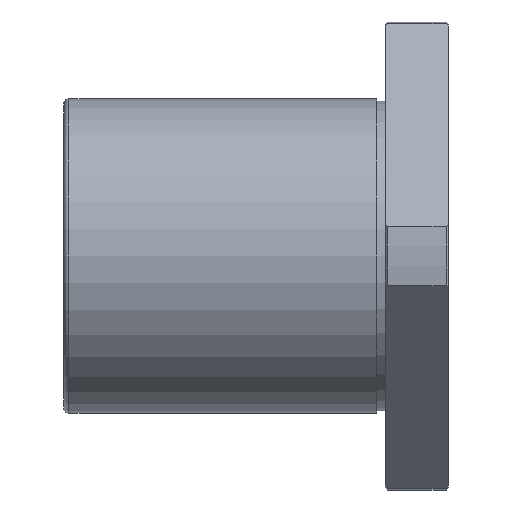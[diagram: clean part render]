
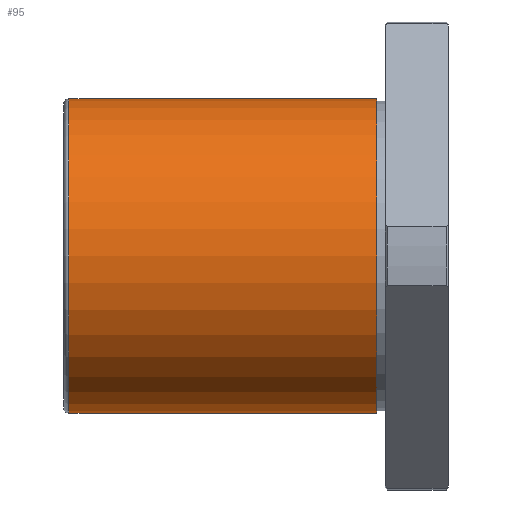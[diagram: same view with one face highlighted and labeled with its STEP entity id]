
A CAD part, front view. The second image highlights one B-rep face of the part: STEP entity #95.
In plain terms, the highlighted cylindrical face has radius 45 mm (diameter 90 mm), a full revolution.
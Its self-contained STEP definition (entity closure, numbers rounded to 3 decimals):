
#95=ADVANCED_FACE('',(#166,#167),#168,.T.);
#166=FACE_OUTER_BOUND('',#266,.T.);
#167=FACE_OUTER_BOUND('',#267,.T.);
#168=CYLINDRICAL_SURFACE('',#268,45.0);
#266=EDGE_LOOP('',(#443));
#267=EDGE_LOOP('',(#444));
#268=AXIS2_PLACEMENT_3D('',#445,#446,#447);
#443=ORIENTED_EDGE('',*,*,#619,.F.);
#444=ORIENTED_EDGE('',*,*,#618,.T.);
#445=CARTESIAN_POINT('',(-64.5,0.0,0.));
#446=DIRECTION('',(-1.0,-0.0,0.));
#447=DIRECTION('',(0.0,1.0,0.0));
#618=EDGE_CURVE('',#736,#736,#737,.T.);
#619=EDGE_CURVE('',#738,#738,#739,.T.);
#736=VERTEX_POINT('',#998);
#737=CIRCLE('',#999,45.0);
#738=VERTEX_POINT('',#1000);
#739=CIRCLE('',#1001,45.0);
#998=CARTESIAN_POINT('',(-20.5,45.0,0.));
#999=AXIS2_PLACEMENT_3D('',#1151,#1152,#1153);
#1000=CARTESIAN_POINT('',(-108.5,45.0,0.));
#1001=AXIS2_PLACEMENT_3D('',#1154,#1155,#1156);
#1151=CARTESIAN_POINT('',(-20.5,0.0,0.));
#1152=DIRECTION('',(-1.0,0.0,0.));
#1153=DIRECTION('',(0.0,1.0,0.0));
#1154=CARTESIAN_POINT('',(-108.5,0.0,0.));
#1155=DIRECTION('',(-1.0,0.0,0.));
#1156=DIRECTION('',(0.0,1.0,0.0));
